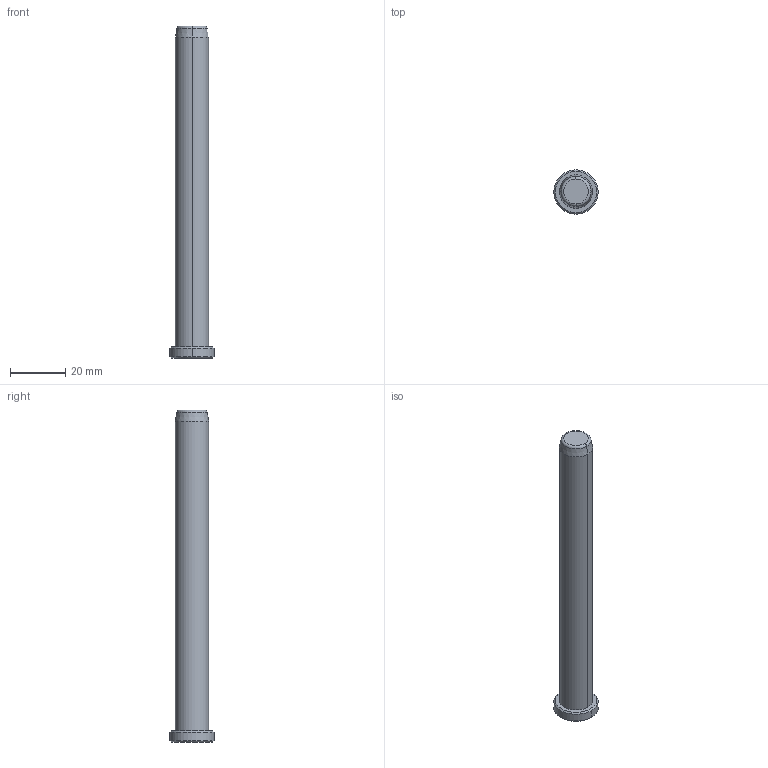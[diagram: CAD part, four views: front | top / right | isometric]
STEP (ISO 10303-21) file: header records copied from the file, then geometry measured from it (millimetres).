
FILE_DESCRIPTION((''),'2;1');
FILE_NAME('B81812120','2018-01-06T',('MANU'),(''),'PRO/ENGINEER BY PARAMETRIC TECHNOLOGY CORPORATION, 2012130','PRO/ENGINEER BY PARAMETRIC TECHNOLOGY CORPORATION, 2012130','');
FILE_SCHEMA(('CONFIG_CONTROL_DESIGN'));
Length unit declared in the file: millimetre
Products named in the file (1): B81812120
Bounding box: 16 x 16 x 120 mm (x, y, z)
Volume: 13855.6 mm3; surface area: 4904.8 mm2
Topology: 1 solids, 1 shells, 15 faces, 28 edges, 16 vertices
Faces by surface type: cone 6, cylinder 4, plane 3, torus 2
Entity records: 414 total; most frequent: DIRECTION 76, CARTESIAN_POINT 59, ORIENTED_EDGE 56, AXIS2_PLACEMENT_3D 33, EDGE_CURVE 28, CIRCLE 18, VERTEX_POINT 16, EDGE_LOOP 16
